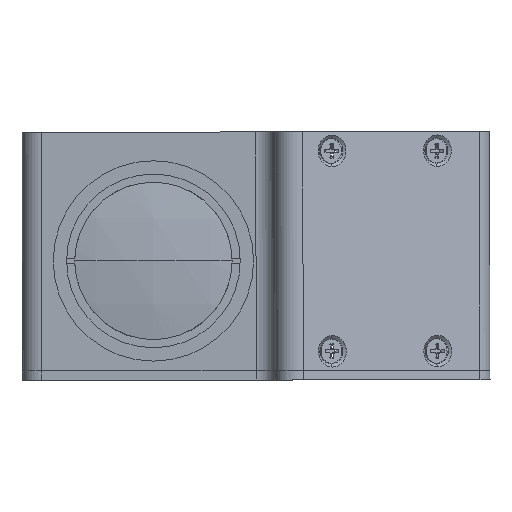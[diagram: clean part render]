
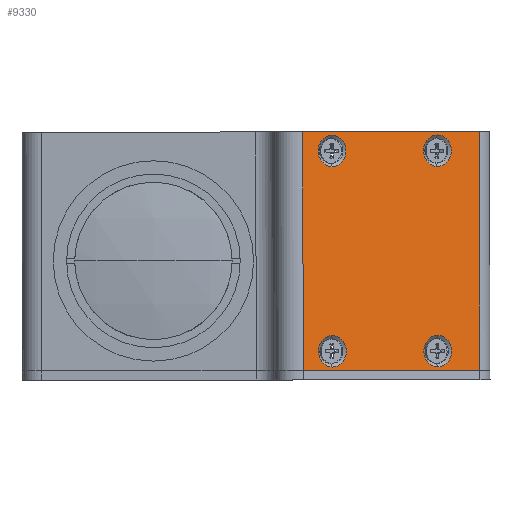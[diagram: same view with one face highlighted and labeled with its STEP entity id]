
A CAD part, left-side view. The second image highlights one B-rep face of the part: STEP entity #9330.
In plain terms, the highlighted planar face has unit normal (-0.883, -0.469, 0.001).
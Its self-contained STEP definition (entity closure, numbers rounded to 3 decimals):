
#59 = VERTEX_POINT ( 'NONE', #14158 ) ;
#253 = ORIENTED_EDGE ( 'NONE', *, *, #11957, .T. ) ;
#375 = CARTESIAN_POINT ( 'NONE',  ( 59.646, -59.511, 23.095 ) ) ;
#719 = EDGE_LOOP ( 'NONE', ( #14304, #7614 ) ) ;
#781 = CARTESIAN_POINT ( 'NONE',  ( 59.646, -59.579, -18.904 ) ) ;
#1024 = VECTOR ( 'NONE', #13116, 1000. ) ;
#1056 = CARTESIAN_POINT ( 'NONE',  ( 47.909, -37.432, 26.36 ) ) ;
#1134 = CARTESIAN_POINT ( 'NONE',  ( 47.909, -37.51, -22.24 ) ) ;
#1199 = FACE_BOUND ( 'NONE', #1755, .T. ) ;
#1449 = DIRECTION ( 'NONE',  ( -0.883, -0.469, 0.001 ) ) ;
#1467 = CARTESIAN_POINT ( 'NONE',  ( 44.651, -31.344, 2.05 ) ) ;
#1530 = DIRECTION ( 'NONE',  ( 0., 0.002, 1. ) ) ;
#1534 = CARTESIAN_POINT ( 'NONE',  ( 64.341, -68.334, 27.11 ) ) ;
#1575 = VECTOR ( 'NONE', #10485, 1000. ) ;
#1755 = EDGE_LOOP ( 'NONE', ( #11306, #9674 ) ) ;
#1800 = CARTESIAN_POINT ( 'NONE',  ( 59.646, -59.511, 23.095 ) ) ;
#1877 = ORIENTED_EDGE ( 'NONE', *, *, #12185, .F. ) ;
#1944 = DIRECTION ( 'NONE',  ( 0., 0.002, 1. ) ) ;
#2180 = PLANE ( 'NONE',  #11961 ) ;
#2306 = CARTESIAN_POINT ( 'NONE',  ( 47.909, -37.438, 23.06 ) ) ;
#2328 = CARTESIAN_POINT ( 'NONE',  ( 47.909, -37.438, 23.06 ) ) ;
#2402 = EDGE_LOOP ( 'NONE', ( #1877, #253, #4557, #14788 ) ) ;
#2592 = VERTEX_POINT ( 'NONE', #5248 ) ;
#2742 = DIRECTION ( 'NONE',  ( -0.883, -0.469, 0.001 ) ) ;
#2908 = CARTESIAN_POINT ( 'NONE',  ( 47.909, -37.5, -15.64 ) ) ;
#2942 = DIRECTION ( 'NONE',  ( 0., 0.002, 1. ) ) ;
#3454 = DIRECTION ( 'NONE',  ( 0., 0.002, 1. ) ) ;
#3476 = DIRECTION ( 'NONE',  ( 0., 0.002, 1. ) ) ;
#3522 = CARTESIAN_POINT ( 'NONE',  ( 67.582, -74.43, 27.119 ) ) ;
#3749 = CIRCLE ( 'NONE', #7445, 3.3 ) ;
#4000 = AXIS2_PLACEMENT_3D ( 'NONE', #1800, #9924, #2942 ) ;
#4272 = AXIS2_PLACEMENT_3D ( 'NONE', #9710, #2742, #10870 ) ;
#4293 = LINE ( 'NONE', #3522, #1575 ) ;
#4363 = EDGE_LOOP ( 'NONE', ( #8325, #13914 ) ) ;
#4382 = VERTEX_POINT ( 'NONE', #1534 ) ;
#4508 = AXIS2_PLACEMENT_3D ( 'NONE', #8394, #1449, #9556 ) ;
#4511 = CARTESIAN_POINT ( 'NONE',  ( 54.554, -49.968, 2.08 ) ) ;
#4557 = ORIENTED_EDGE ( 'NONE', *, *, #11971, .F. ) ;
#4693 = VERTEX_POINT ( 'NONE', #13713 ) ;
#4735 = CIRCLE ( 'NONE', #7651, 3.3 ) ;
#4842 = AXIS2_PLACEMENT_3D ( 'NONE', #2306, #10420, #3454 ) ;
#5021 = LINE ( 'NONE', #12670, #13479 ) ;
#5248 = CARTESIAN_POINT ( 'NONE',  ( 59.646, -59.574, -15.604 ) ) ;
#5404 = CIRCLE ( 'NONE', #7127, 3.3 ) ;
#5589 = CARTESIAN_POINT ( 'NONE',  ( 47.909, -37.505, -18.94 ) ) ;
#5850 = VERTEX_POINT ( 'NONE', #14851 ) ;
#5922 = VECTOR ( 'NONE', #9535, 1000. ) ;
#6207 = CARTESIAN_POINT ( 'NONE',  ( 67.582, -74.51, -22.881 ) ) ;
#6735 = DIRECTION ( 'NONE',  ( 0., 0.002, 1. ) ) ;
#6848 = DIRECTION ( 'NONE',  ( 0., 0.002, 1. ) ) ;
#7127 = AXIS2_PLACEMENT_3D ( 'NONE', #2328, #10442, #3476 ) ;
#7172 = CIRCLE ( 'NONE', #4508, 3.3 ) ;
#7375 = FACE_BOUND ( 'NONE', #4363, .T. ) ;
#7445 = AXIS2_PLACEMENT_3D ( 'NONE', #5589, #13613, #6735 ) ;
#7451 = CARTESIAN_POINT ( 'NONE',  ( 47.909, -37.443, 19.76 ) ) ;
#7614 = ORIENTED_EDGE ( 'NONE', *, *, #11330, .F. ) ;
#7628 = VERTEX_POINT ( 'NONE', #7451 ) ;
#7651 = AXIS2_PLACEMENT_3D ( 'NONE', #781, #8899, #1944 ) ;
#7753 = FACE_BOUND ( 'NONE', #719, .T. ) ;
#7918 = VERTEX_POINT ( 'NONE', #1134 ) ;
#8001 = CARTESIAN_POINT ( 'NONE',  ( 59.646, -59.584, -22.204 ) ) ;
#8065 = AXIS2_PLACEMENT_3D ( 'NONE', #375, #8501, #1530 ) ;
#8235 = VERTEX_POINT ( 'NONE', #1056 ) ;
#8283 = CIRCLE ( 'NONE', #4842, 3.3 ) ;
#8325 = ORIENTED_EDGE ( 'NONE', *, *, #12701, .F. ) ;
#8394 = CARTESIAN_POINT ( 'NONE',  ( 47.909, -37.505, -18.94 ) ) ;
#8501 = DIRECTION ( 'NONE',  ( -0.883, -0.469, 0.001 ) ) ;
#8585 = ORIENTED_EDGE ( 'NONE', *, *, #11054, .F. ) ;
#8899 = DIRECTION ( 'NONE',  ( -0.883, -0.469, 0.001 ) ) ;
#9026 = LINE ( 'NONE', #1467, #5922 ) ;
#9330 = ADVANCED_FACE ( 'NONE', ( #13111, #7375, #7753, #1199, #10095 ), #2180, .T. ) ;
#9524 = VERTEX_POINT ( 'NONE', #9633 ) ;
#9535 = DIRECTION ( 'NONE',  ( 0., -0.002, -1. ) ) ;
#9556 = DIRECTION ( 'NONE',  ( 0., 0.002, 1. ) ) ;
#9633 = CARTESIAN_POINT ( 'NONE',  ( 59.646, -59.517, 19.796 ) ) ;
#9674 = ORIENTED_EDGE ( 'NONE', *, *, #11435, .F. ) ;
#9710 = CARTESIAN_POINT ( 'NONE',  ( 59.646, -59.579, -18.904 ) ) ;
#9924 = DIRECTION ( 'NONE',  ( -0.883, -0.469, 0.001 ) ) ;
#10036 = CIRCLE ( 'NONE', #8065, 3.3 ) ;
#10095 = FACE_OUTER_BOUND ( 'NONE', #2402, .T. ) ;
#10420 = DIRECTION ( 'NONE',  ( -0.883, -0.469, 0.001 ) ) ;
#10442 = DIRECTION ( 'NONE',  ( -0.883, -0.469, 0.001 ) ) ;
#10485 = DIRECTION ( 'NONE',  ( 0.469, -0.883, 0.001 ) ) ;
#10682 = VERTEX_POINT ( 'NONE', #2908 ) ;
#10735 = EDGE_LOOP ( 'NONE', ( #12743, #8585 ) ) ;
#10859 = VERTEX_POINT ( 'NONE', #8001 ) ;
#10870 = DIRECTION ( 'NONE',  ( 0., 0.002, 1. ) ) ;
#11054 = EDGE_CURVE ( 'NONE', #9524, #11831, #10036, .T. ) ;
#11229 = EDGE_CURVE ( 'NONE', #10859, #2592, #4735, .T. ) ;
#11306 = ORIENTED_EDGE ( 'NONE', *, *, #12527, .F. ) ;
#11330 = EDGE_CURVE ( 'NONE', #7918, #10682, #3749, .T. ) ;
#11435 = EDGE_CURVE ( 'NONE', #7628, #8235, #5404, .T. ) ;
#11620 = EDGE_CURVE ( 'NONE', #4693, #5850, #9026, .T. ) ;
#11831 = VERTEX_POINT ( 'NONE', #12521 ) ;
#11957 = EDGE_CURVE ( 'NONE', #59, #4382, #5021, .T. ) ;
#11961 = AXIS2_PLACEMENT_3D ( 'NONE', #4511, #13711, #6848 ) ;
#11971 = EDGE_CURVE ( 'NONE', #4693, #4382, #4293, .T. ) ;
#12185 = EDGE_CURVE ( 'NONE', #59, #5850, #12940, .T. ) ;
#12227 = CIRCLE ( 'NONE', #4272, 3.3 ) ;
#12521 = CARTESIAN_POINT ( 'NONE',  ( 59.646, -59.506, 26.395 ) ) ;
#12527 = EDGE_CURVE ( 'NONE', #8235, #7628, #8283, .T. ) ;
#12645 = EDGE_CURVE ( 'NONE', #10682, #7918, #7172, .T. ) ;
#12670 = CARTESIAN_POINT ( 'NONE',  ( 64.341, -68.375, 2.11 ) ) ;
#12701 = EDGE_CURVE ( 'NONE', #2592, #10859, #12227, .T. ) ;
#12715 = DIRECTION ( 'NONE',  ( 0., 0.002, 1. ) ) ;
#12743 = ORIENTED_EDGE ( 'NONE', *, *, #12811, .F. ) ;
#12811 = EDGE_CURVE ( 'NONE', #11831, #9524, #13789, .T. ) ;
#12940 = LINE ( 'NONE', #6207, #1024 ) ;
#13111 = FACE_BOUND ( 'NONE', #10735, .T. ) ;
#13116 = DIRECTION ( 'NONE',  ( -0.469, 0.883, -0.001 ) ) ;
#13479 = VECTOR ( 'NONE', #12715, 1000. ) ;
#13613 = DIRECTION ( 'NONE',  ( -0.883, -0.469, 0.001 ) ) ;
#13711 = DIRECTION ( 'NONE',  ( -0.883, -0.469, 0.001 ) ) ;
#13713 = CARTESIAN_POINT ( 'NONE',  ( 44.651, -31.304, 27.05 ) ) ;
#13789 = CIRCLE ( 'NONE', #4000, 3.3 ) ;
#13914 = ORIENTED_EDGE ( 'NONE', *, *, #11229, .F. ) ;
#14158 = CARTESIAN_POINT ( 'NONE',  ( 64.341, -68.415, -22.89 ) ) ;
#14304 = ORIENTED_EDGE ( 'NONE', *, *, #12645, .F. ) ;
#14788 = ORIENTED_EDGE ( 'NONE', *, *, #11620, .T. ) ;
#14851 = CARTESIAN_POINT ( 'NONE',  ( 44.651, -31.384, -22.95 ) ) ;
